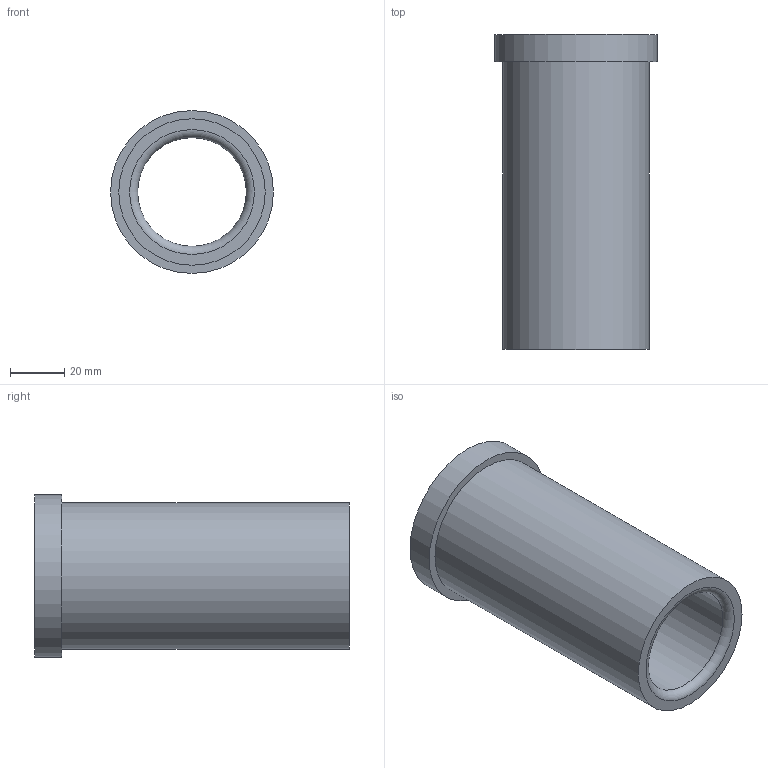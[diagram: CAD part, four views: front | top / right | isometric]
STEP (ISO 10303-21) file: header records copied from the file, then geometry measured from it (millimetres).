
FILE_DESCRIPTION(/* description */ ('STEP AP214'),/* implementation_level */ '2;1');
FILE_NAME(/* name */ '03_12_17954',/* time_stamp */ '2023-06-15T11:35:43+02:00',/* author */ ('License CC BY-ND 4.0'),/* organization */ ('CADENAS'),/* preprocessor_version */ 'ST-DEVELOPER v19.3',/* originating_system */ 'PARTsolutions',/* authorisation */ ' ');
FILE_SCHEMA (('AUTOMOTIVE_DESIGN {1 0 10303 214 3 1 1}'));
Length unit declared in the file: millimetre
Products named in the file (1): VA_Bushing_17954
Bounding box: 60 x 116 x 60 mm (x, y, z)
Volume: 123881.4 mm3; surface area: 37311.7 mm2
Topology: 1 solids, 1 shells, 10 faces, 16 edges, 10 vertices
Faces by surface type: cylinder 4, plane 4, torus 2
Full cylindrical faces by diameter (mm): 40 x1, 40.6 x1, 54 x1, 60 x1
Entity records: 302 total; most frequent: DIRECTION 42, CARTESIAN_POINT 31, AXIS2_PLACEMENT_3D 21, ORIENTED_EDGE 20, EDGE_LOOP 20, FACE_BOUND 20, EDGE_CURVE 10, VERTEX_POINT 10
